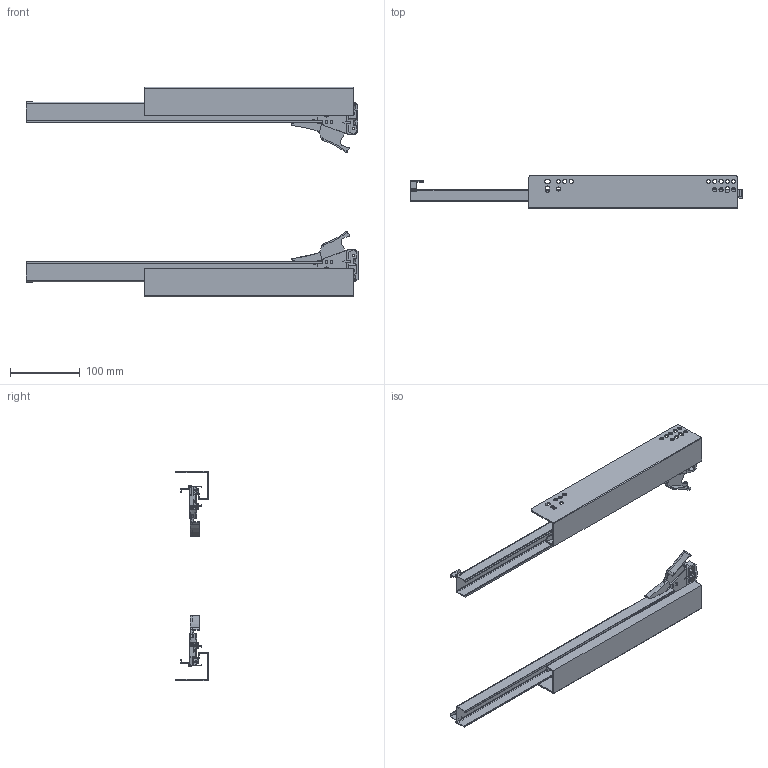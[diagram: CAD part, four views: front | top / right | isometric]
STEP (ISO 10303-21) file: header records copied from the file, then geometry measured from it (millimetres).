
FILE_DESCRIPTION(/* description */ (''),/* implementation_level */ '2;1');
FILE_NAME(/* name */ 'C:\Users\dmitruk\Documents\WORK\НАПРАВЛЯЮЩИЕ\Скрытого монтажа\PUSH\Направляющие скрытого монтажа PUSH TO OPEN\Направляющие скрытого монтажа PUSH TO OPEN-450.stp',/* time_stamp */ '2022-04-22T12:22:04+03:00',/* author */ ('dmitruk'),/* organization */ (''),/* preprocessor_version */ 'ST-DEVELOPER v16.5',/* originating_system */ 'Autodesk Inventor 2017',/* authorisation */ '');
FILE_SCHEMA (('AUTOMOTIVE_DESIGN { 1 0 10303 214 3 1 1 }'));
Length unit declared in the file: millimetre
Products named in the file (13): Направляющие \X2\0441043A
0440044B0442043E0433043E\X0\ монтажа PUSH
 TO OPEN; 3D CP Push; 3D DP Push; 3D CP Push LEFT; 3D DP Push LEFT; Замок Push R; Твердое \X2\04420435043B043E
\X0\1; Твердое \X2\04420435043B043E
\X0\2; Твердое \X2\04420435043B043E
\X0\3; Замок Pusg L; Твердое \X2\04420435043B043E
\X0\1_1; Твердое \X2\04420435043B043E
\X0\2_1; Твердое \X2\04420435043B043E
\X0\3_1
Assembly tree (12 placements, depth 3):
  Направляющие \X2\0441043A
0440044B0442043E0433043E\X0\ монтажа PUSH
 TO OPEN
    3D CP Push
    3D DP Push
    3D CP Push LEFT
    3D DP Push LEFT
    Замок Push R
      Твердое \X2\04420435043B043E
\X0\1
      Твердое \X2\04420435043B043E
\X0\2
      Твердое \X2\04420435043B043E
\X0\3
    Замок Pusg L
      Твердое \X2\04420435043B043E
\X0\1_1
      Твердое \X2\04420435043B043E
\X0\2_1
      Твердое \X2\04420435043B043E
\X0\3_1
Bounding box: 476 x 48 x 300 mm (x, y, z)
Volume: 210815.2 mm3; surface area: 276536.5 mm2
Topology: 10 solids, 10 shells, 812 faces, 2272 edges, 1504 vertices
Faces by surface type: plane 542, cylinder 250, cone 10, bspline 6, sphere 2, torus 2
Full cylindrical faces by diameter (mm): 3 x12, 6 x26
Entity records: 26647 total; most frequent: CARTESIAN_POINT 4887, ORIENTED_EDGE 4428, DIRECTION 4392, EDGE_CURVE 2214, LINE 1646, VECTOR 1646, VERTEX_POINT 1492, AXIS2_PLACEMENT_3D 1373
